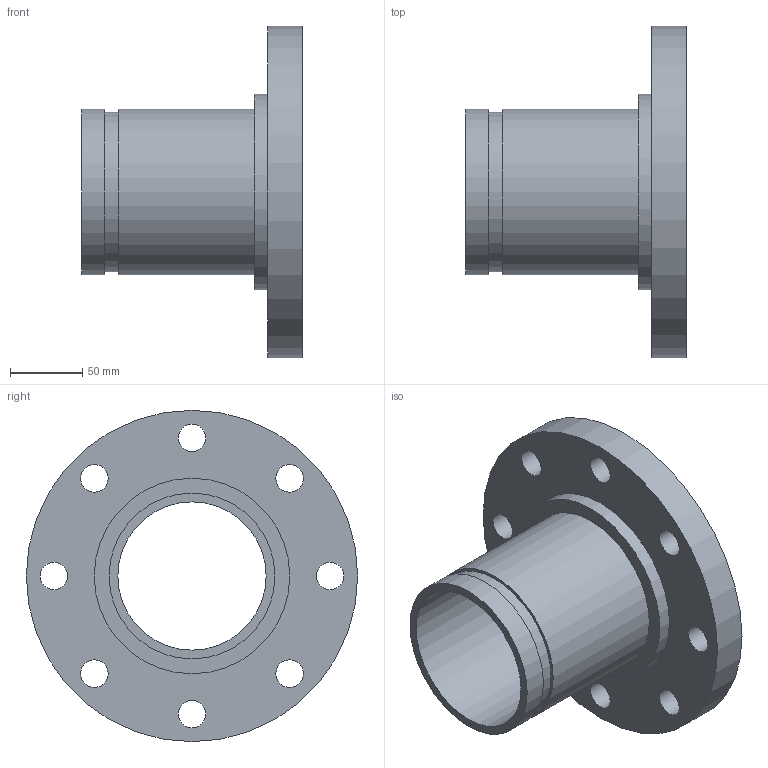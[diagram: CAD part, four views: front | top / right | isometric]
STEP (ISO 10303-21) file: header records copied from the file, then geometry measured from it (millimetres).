
FILE_DESCRIPTION(/* description */ ('VIC FLANGE ADAPTER No 45F','CAx-IF Rec.Pracs.---Representation and Presentation of Product Manufacturing Information (PMI)---4.0---2014-10-13'),/* implementation_level */ '2;1');
FILE_NAME(/* name */ 'C:\Users\kkamble\AppData\Roaming\Autodesk\ApplicationPlugins\Back Up\Victaulic_IPS_Flanged Adapter Nipple_CL 150 FF_No 45F (OGSxFLG)\Victaulic_IPS_Flanged Adapter Nipple_CL 150 FF_No 45F (OGSxFLG)_4 (100).stp',/* time_stamp */ '2020-07-26T22:23:02+06:00',/* author */ ('CONSTRUCTION PIPING SERVICES'),/* organization */ ('Victaulic'),/* preprocessor_version */ 'ST-DEVELOPER v17.2',/* originating_system */ 'Autodesk Inventor 2019',/* authorisation */ '');
FILE_SCHEMA (('AP242_MANAGED_MODEL_BASED_3D_ENGINEERING_MIM_LF { 1 0 10303 442 1 1 4 }'));
Length unit declared in the file: inch
Products named in the file (1): 045F-04.0
Bounding box: 152.4 x 228.6 x 228.6 mm (x, y, z)
Volume: 1023362.8 mm3; surface area: 186756.8 mm2
Topology: 1 solids, 1 shells, 20 faces, 54 edges, 40 vertices
Faces by surface type: cylinder 14, plane 6
Full cylindrical faces by diameter (mm): 19.05 x8, 102.26 x1, 110.084 x1, 114.3 x2, 134.874 x1, 228.6 x1
Entity records: 782 total; most frequent: DIRECTION 136, CARTESIAN_POINT 115, ORIENTED_EDGE 108, AXIS2_PLACEMENT_3D 61, EDGE_CURVE 54, EDGE_LOOP 42, CIRCLE 40, VERTEX_POINT 40
